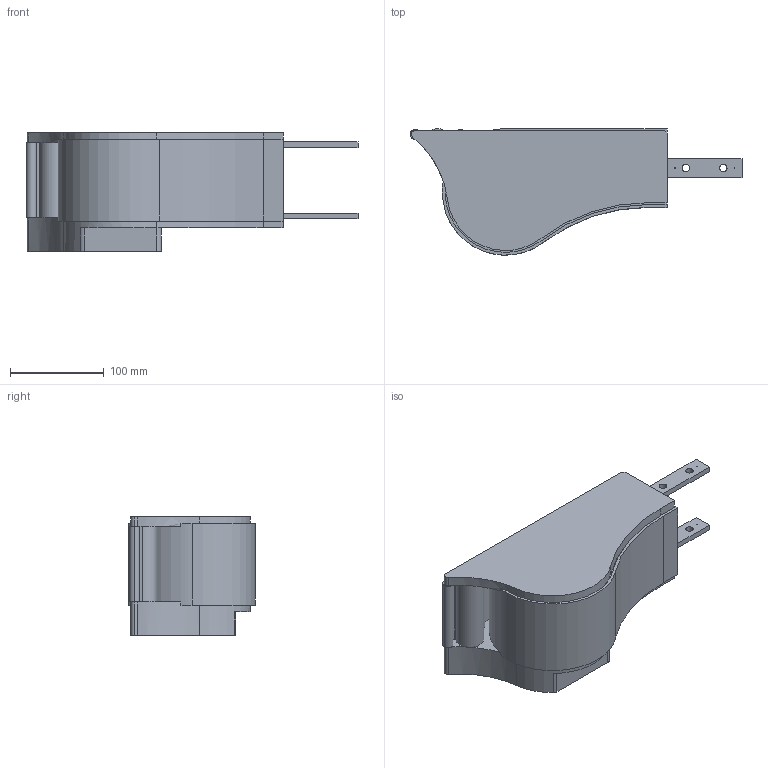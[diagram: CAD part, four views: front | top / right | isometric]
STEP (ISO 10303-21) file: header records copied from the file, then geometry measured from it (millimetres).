
FILE_DESCRIPTION (( 'STEP AP214' ), '1' );
FILE_NAME ('CS SL Aandr. - Omloop.90 Omloop rol.STEP', '2017-02-08T07:32:59', ( '' ), ( '' ), 'SwSTEP 2.0', 'SolidWorks 2016', '' );
FILE_SCHEMA (( 'AUTOMOTIVE_DESIGN' ));
Length unit declared in the file: millimetre
Products named in the file (1): CS SL Aandr. - Omloop.90 Omloop rol
Bounding box: 354.5 x 134.96 x 126.6 mm (x, y, z)
Volume: 2937294.8 mm3; surface area: 164537.9 mm2
Topology: 1 solids, 1 shells, 98 faces, 296 edges, 192 vertices
Faces by surface type: plane 56, cylinder 42
Entity records: 3437 total; most frequent: DIRECTION 609, ORIENTED_EDGE 592, CARTESIAN_POINT 587, EDGE_CURVE 296, AXIS2_PLACEMENT_3D 214, VERTEX_POINT 192, VECTOR 181, LINE 181
